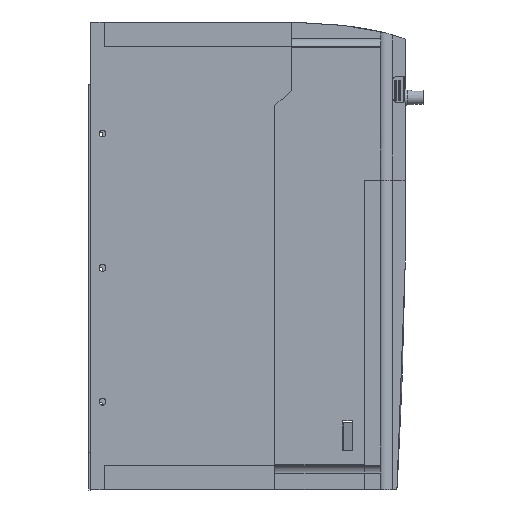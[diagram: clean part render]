
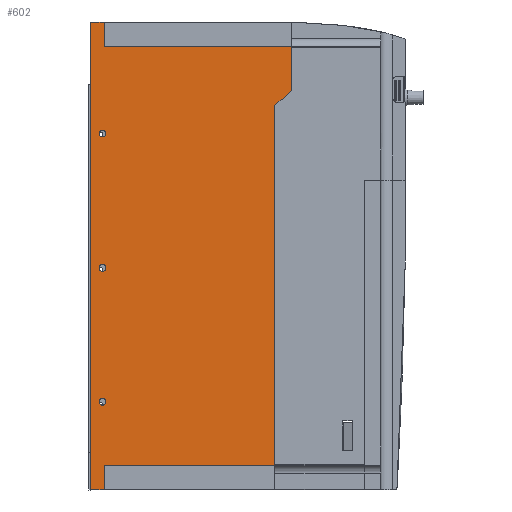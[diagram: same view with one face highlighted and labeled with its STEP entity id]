
A CAD part, front view. The second image highlights one B-rep face of the part: STEP entity #602.
In plain terms, the highlighted planar face has unit normal (0, -1, 0) as drawn and (1, 0, 0) by its records, which use the part's own axes.
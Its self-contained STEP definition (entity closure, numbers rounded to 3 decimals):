
#602=ADVANCED_FACE('',(#6129,#6131,#6133,#6135),#6137,.T.);
#6129=FACE_BOUND('',#6130,.T.);
#6130=EDGE_LOOP('',(#15713,#15714,#15715,#15716,#15717,#15718,#15719,#15720,#15721,
#15722));
#6131=FACE_BOUND('',#6132,.T.);
#6132=EDGE_LOOP('',(#15723));
#6133=FACE_BOUND('',#6134,.T.);
#6134=EDGE_LOOP('',(#15724));
#6135=FACE_BOUND('',#6136,.T.);
#6136=EDGE_LOOP('',(#15725));
#6137=PLANE('',#6138);
#6138=AXIS2_PLACEMENT_3D('',#6139,#6140,#6141);
#6139=CARTESIAN_POINT('',(90.25,0.,140.25));
#6140=DIRECTION('',(1.,0.,0.));
#6141=DIRECTION('',(0.,0.,-1.));
#15713=ORIENTED_EDGE('',*,*,#22417,.T.);
#15714=ORIENTED_EDGE('',*,*,#22418,.T.);
#15715=ORIENTED_EDGE('',*,*,#22419,.F.);
#15716=ORIENTED_EDGE('',*,*,#22420,.T.);
#15717=ORIENTED_EDGE('',*,*,#22421,.T.);
#15718=ORIENTED_EDGE('',*,*,#22422,.F.);
#15719=ORIENTED_EDGE('',*,*,#22107,.T.);
#15720=ORIENTED_EDGE('',*,*,#22213,.T.);
#15721=ORIENTED_EDGE('',*,*,#22423,.T.);
#15722=ORIENTED_EDGE('',*,*,#22424,.T.);
#15723=ORIENTED_EDGE('',*,*,#22425,.T.);
#15724=ORIENTED_EDGE('',*,*,#22426,.T.);
#15725=ORIENTED_EDGE('',*,*,#22427,.T.);
#22107=EDGE_CURVE('',#26044,#26041,#26045,.T.);
#22213=EDGE_CURVE('',#26041,#26238,#26240,.T.);
#22417=EDGE_CURVE('',#26646,#26647,#26648,.F.);
#22418=EDGE_CURVE('',#26647,#26649,#26650,.F.);
#22419=EDGE_CURVE('',#26651,#26649,#26652,.T.);
#22420=EDGE_CURVE('',#26651,#26653,#26654,.F.);
#22421=EDGE_CURVE('',#26653,#26655,#26656,.T.);
#22422=EDGE_CURVE('',#26044,#26655,#26657,.T.);
#22423=EDGE_CURVE('',#26238,#26658,#26659,.T.);
#22424=EDGE_CURVE('',#26658,#26646,#26660,.F.);
#22425=EDGE_CURVE('',#26661,#26661,#26662,.F.);
#22426=EDGE_CURVE('',#26663,#26663,#26664,.F.);
#22427=EDGE_CURVE('',#26665,#26665,#26666,.F.);
#26041=VERTEX_POINT('',#33083);
#26044=VERTEX_POINT('',#33088);
#26045=LINE('',#33089,#33090);
#26238=VERTEX_POINT('',#33512);
#26240=LINE('',#33516,#33517);
#26646=VERTEX_POINT('',#34330);
#26647=VERTEX_POINT('',#34331);
#26648=LINE('',#34332,#34333);
#26649=VERTEX_POINT('',#34335);
#26650=LINE('',#34336,#34337);
#26651=VERTEX_POINT('',#34339);
#26652=LINE('',#34340,#34341);
#26653=VERTEX_POINT('',#34343);
#26654=LINE('',#34344,#34345);
#26655=VERTEX_POINT('',#34347);
#26656=LINE('',#34348,#34349);
#26657=LINE('',#34351,#34352);
#26658=VERTEX_POINT('',#34354);
#26659=LINE('',#34355,#34356);
#26660=LINE('',#34358,#34359);
#26661=VERTEX_POINT('',#34361);
#26662=CIRCLE('',#34362,2.);
#26663=VERTEX_POINT('',#34366);
#26664=CIRCLE('',#34367,2.);
#26665=VERTEX_POINT('',#34371);
#26666=CIRCLE('',#34372,2.);
#33083=CARTESIAN_POINT('',(90.25,0.,-140.25));
#33088=CARTESIAN_POINT('',(90.25,0.,140.25));
#33089=CARTESIAN_POINT('',(90.25,0.,140.25));
#33090=VECTOR('',#33091,1.);
#33091=DIRECTION('',(0.,0.,-1.));
#33512=CARTESIAN_POINT('',(90.25,8.3,-140.25));
#33516=CARTESIAN_POINT('',(90.25,0.,-140.25));
#33517=VECTOR('',#33518,1.);
#33518=DIRECTION('',(0.,1.,0.));
#34330=CARTESIAN_POINT('',(90.25,110.5,-125.35));
#34331=CARTESIAN_POINT('',(90.25,110.5,90.15));
#34332=CARTESIAN_POINT('',(90.25,110.5,90.15));
#34333=VECTOR('',#34334,1.);
#34334=DIRECTION('',(0.,0.,-1.));
#34335=CARTESIAN_POINT('',(90.25,120.5,99.15));
#34336=CARTESIAN_POINT('',(90.25,120.5,99.15));
#34337=VECTOR('',#34338,1.);
#34338=DIRECTION('',(0.,-0.743,-0.669));
#34339=CARTESIAN_POINT('',(90.25,120.5,125.45));
#34340=CARTESIAN_POINT('',(90.25,120.5,125.45));
#34341=VECTOR('',#34342,1.);
#34342=DIRECTION('',(0.,0.,-1.));
#34343=CARTESIAN_POINT('',(90.25,8.3,125.45));
#34344=CARTESIAN_POINT('',(90.25,8.3,125.45));
#34345=VECTOR('',#34346,1.);
#34346=DIRECTION('',(0.,1.,0.));
#34347=CARTESIAN_POINT('',(90.25,8.3,140.25));
#34348=CARTESIAN_POINT('',(90.25,8.3,125.45));
#34349=VECTOR('',#34350,1.);
#34350=DIRECTION('',(0.,0.,1.));
#34351=CARTESIAN_POINT('',(90.25,0.,140.25));
#34352=VECTOR('',#34353,1.);
#34353=DIRECTION('',(0.,1.,0.));
#34354=CARTESIAN_POINT('',(90.25,8.3,-125.35));
#34355=CARTESIAN_POINT('',(90.25,8.3,-140.25));
#34356=VECTOR('',#34357,1.);
#34357=DIRECTION('',(0.,0.,1.));
#34358=CARTESIAN_POINT('',(90.25,110.5,-125.35));
#34359=VECTOR('',#34360,1.);
#34360=DIRECTION('',(0.,-1.,0.));
#34361=CARTESIAN_POINT('',(90.25,9.2,73.35));
#34362=AXIS2_PLACEMENT_3D('',#34363,#34364,#34365);
#34363=CARTESIAN_POINT('',(90.25,7.2,73.35));
#34364=DIRECTION('',(1.,0.,0.));
#34365=DIRECTION('',(0.,1.,0.));
#34366=CARTESIAN_POINT('',(90.25,9.2,-7.15));
#34367=AXIS2_PLACEMENT_3D('',#34368,#34369,#34370);
#34368=CARTESIAN_POINT('',(90.25,7.2,-7.15));
#34369=DIRECTION('',(1.,0.,0.));
#34370=DIRECTION('',(0.,1.,0.));
#34371=CARTESIAN_POINT('',(90.25,9.2,-87.45));
#34372=AXIS2_PLACEMENT_3D('',#34373,#34374,#34375);
#34373=CARTESIAN_POINT('',(90.25,7.2,-87.45));
#34374=DIRECTION('',(1.,0.,0.));
#34375=DIRECTION('',(0.,1.,0.));
